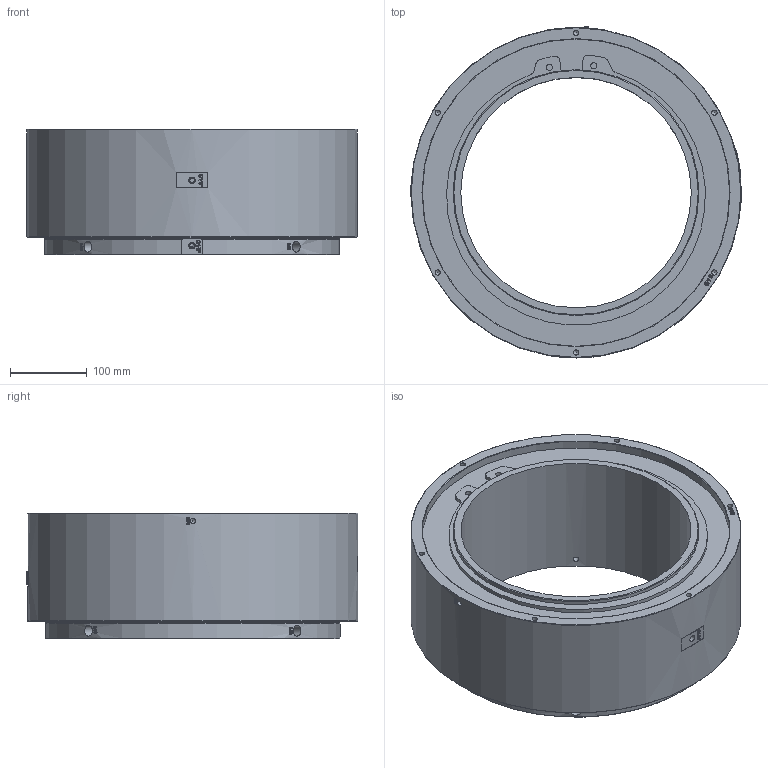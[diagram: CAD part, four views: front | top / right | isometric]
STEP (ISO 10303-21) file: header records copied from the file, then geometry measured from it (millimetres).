
FILE_DESCRIPTION(/* description */ (''),/* implementation_level */ '2;1');
FILE_NAME(/* name */ 'HQ0201D300-3D模型.stp',/* time_stamp */ '2025-08-05T18:19:30+08:00',/* author */ (''),/* organization */ (''),/* preprocessor_version */ 'ST-DEVELOPER v16.7',/* originating_system */ 'SIEMENS PLM Software NX 12.0',/* authorisation */ '');
FILE_SCHEMA (('AUTOMOTIVE_DESIGN { 1 0 10303 214 3 1 1 1 }'));
Products named in the file (1): Admi16E026DChyzc
Bounding box: 430.25 x 432 x 163.9 mm (x, y, z)
Volume: 10985925.5 mm3; surface area: 601801.5 mm2
Topology: 1 solids, 1 shells, 1264 faces, 3418 edges, 2279 vertices
Faces by surface type: extrusion 620, plane 474, cylinder 90, bspline 56, cone 24
Full cylindrical faces by diameter (mm): 6 x6, 6.7 x2, 6.8 x18, 8 x2, 8.5 x2, 8.8 x2, 14 x4, 300 x1, 310 x1, 320 x1, 355 x1, 400 x1, 430 x1
Entity records: 56688 total; most frequent: CARTESIAN_POINT 30152, ORIENTED_EDGE 6594, EDGE_CURVE 3297, B_SPLINE_CURVE_WITH_KNOTS 3096, DIRECTION 2936, VERTEX_POINT 2242, EDGE_LOOP 1467, ADVANCED_FACE 1262
